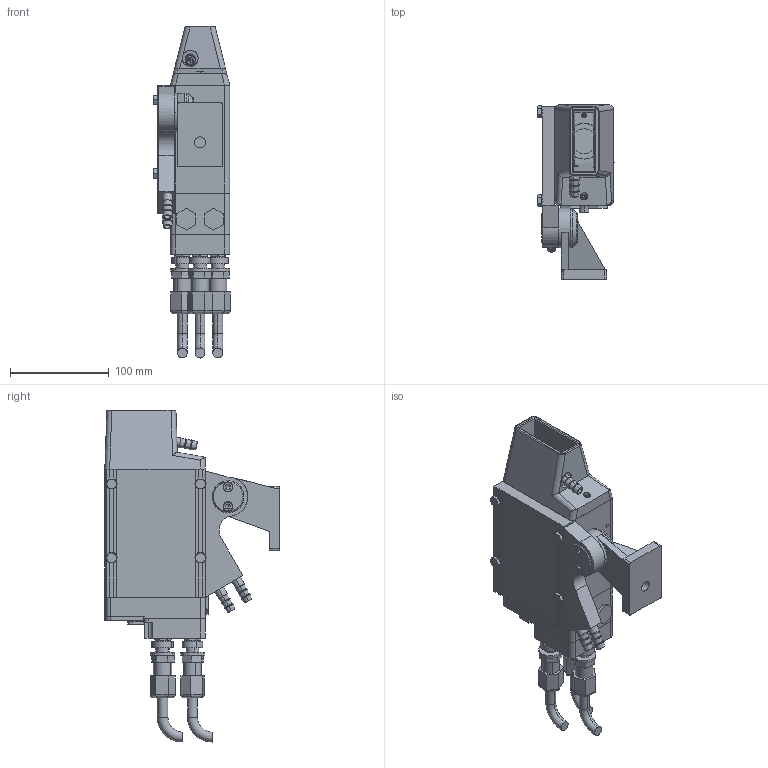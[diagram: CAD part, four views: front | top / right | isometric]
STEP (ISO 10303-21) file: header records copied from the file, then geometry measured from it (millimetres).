
FILE_DESCRIPTION (( 'STEP AP214' ), '1' );
FILE_NAME ('FT1600 JC STEP Mechanical Dimesnions.STEP', '2017-03-09T15:04:32', ( '' ), ( '' ), 'SwSTEP 2.0', 'SolidWorks 2014', '' );
FILE_SCHEMA (( 'AUTOMOTIVE_DESIGN' ));
Length unit declared in the file: millimetre
Products named in the file (1): FT1600 JC STEP Mechanical Dimesnions
Bounding box: 77.7 x 177.1 x 336.8 mm (x, y, z)
Volume: 859883.8 mm3; surface area: 289519.2 mm2
Topology: 63 solids, 64 shells, 3255 faces, 8388 edges, 5387 vertices
Faces by surface type: plane 1675, cylinder 1011, bspline 295, cone 214, torus 56, sphere 4
Entity records: 143769 total; most frequent: CARTESIAN_POINT 28691, ORIENTED_EDGE 16596, DIRECTION 15838, EDGE_CURVE 8298, VERTEX_POINT 5379, AXIS2_PLACEMENT_3D 5317, VECTOR 5204, LINE 5204
